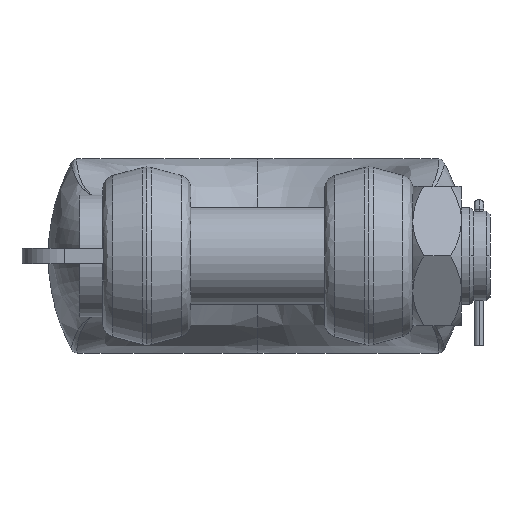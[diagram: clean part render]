
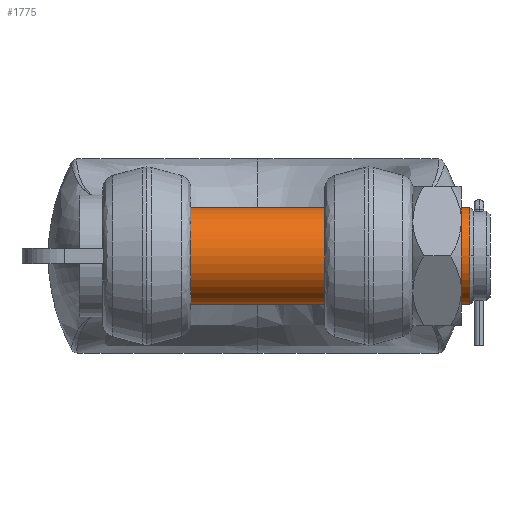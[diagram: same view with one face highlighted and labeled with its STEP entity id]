
A CAD part, front view. The second image highlights one B-rep face of the part: STEP entity #1775.
In plain terms, the highlighted cylindrical face has radius 80 mm (diameter 160 mm), a partial arc.
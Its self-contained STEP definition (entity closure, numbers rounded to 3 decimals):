
#1775=ADVANCED_FACE('NONE',(#3551),#3552,.T.);
#3551=FACE_OUTER_BOUND('',#64418,.T.);
#3552=CYLINDRICAL_SURFACE('',#64419,80.0);
#64418=EDGE_LOOP('',(#68818,#68819,#68820,#68821,#68822));
#64419=AXIS2_PLACEMENT_3D('',#68823,#68824,#68825);
#68818=ORIENTED_EDGE('',*,*,#70793,.F.);
#68819=ORIENTED_EDGE('',*,*,#70840,.T.);
#68820=ORIENTED_EDGE('',*,*,#70796,.T.);
#68821=ORIENTED_EDGE('',*,*,#70800,.T.);
#68822=ORIENTED_EDGE('',*,*,#70842,.T.);
#68823=CARTESIAN_POINT('',(-255.0,0.,0.));
#68824=DIRECTION('',(-1.0,0.,0.));
#68825=DIRECTION('',(0.,0.,-1.0));
#70793=EDGE_CURVE('NONE',#73699,#73705,#73706,.T.);
#70796=EDGE_CURVE('NONE',#73701,#73709,#73711,.T.);
#70800=EDGE_CURVE('NONE',#73709,#73716,#73718,.T.);
#70840=EDGE_CURVE('NONE',#73699,#73701,#73772,.T.);
#70842=EDGE_CURVE('NONE',#73716,#73705,#73774,.T.);
#73699=VERTEX_POINT('NONE',#98674);
#73701=VERTEX_POINT('NONE',#98676);
#73705=VERTEX_POINT('NONE',#98680);
#73706=LINE('',#98681,#98682);
#73709=VERTEX_POINT('NONE',#98685);
#73711=LINE('',#98687,#98688);
#73716=VERTEX_POINT('NONE',#98693);
#73718=CIRCLE('',#98696,80.0);
#73772=CIRCLE('',#99130,80.0);
#73774=CIRCLE('',#99132,80.0);
#98674=CARTESIAN_POINT('',(-251.0,0.,80.0));
#98676=CARTESIAN_POINT('',(-251.0,0.,-80.0));
#98680=CARTESIAN_POINT('',(349.0,0.,80.0));
#98681=CARTESIAN_POINT('',(-255.0,0.,80.0));
#98682=VECTOR('',#100515,1000.0);
#98685=CARTESIAN_POINT('',(349.0,0.,-80.0));
#98687=CARTESIAN_POINT('',(-255.0,0.,-80.0));
#98688=VECTOR('',#100522,1000.0);
#98693=CARTESIAN_POINT('',(349.0,-80.,0.));
#98696=AXIS2_PLACEMENT_3D('',#100527,#100528,#100529);
#99130=AXIS2_PLACEMENT_3D('',#100578,#100579,#100580);
#99132=AXIS2_PLACEMENT_3D('',#100581,#100582,#100583);
#100515=DIRECTION('',(1.0,0.,0.));
#100522=DIRECTION('',(1.0,0.,0.));
#100527=CARTESIAN_POINT('',(349.0,0.,0.));
#100528=DIRECTION('',(-1.0,0.,0.));
#100529=DIRECTION('',(0.,0.,-1.0));
#100578=CARTESIAN_POINT('',(-251.0,0.,0.));
#100579=DIRECTION('',(1.0,0.,0.));
#100580=DIRECTION('',(0.,0.,-1.0));
#100581=CARTESIAN_POINT('',(349.0,0.,0.));
#100582=DIRECTION('',(-1.0,0.,0.));
#100583=DIRECTION('',(0.,0.,-1.0));
